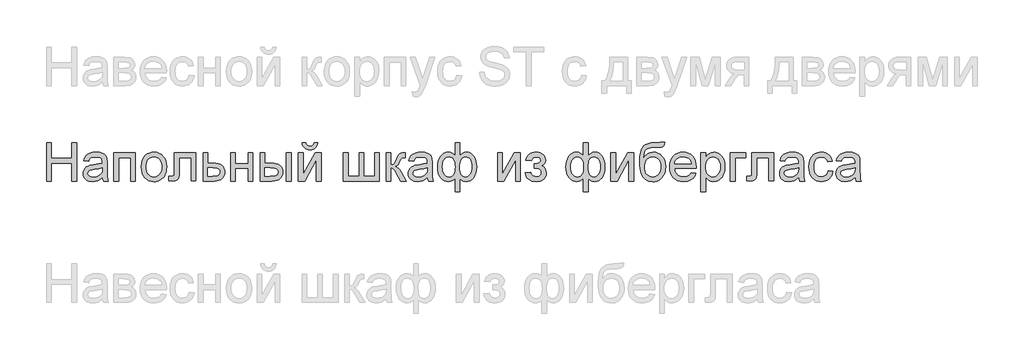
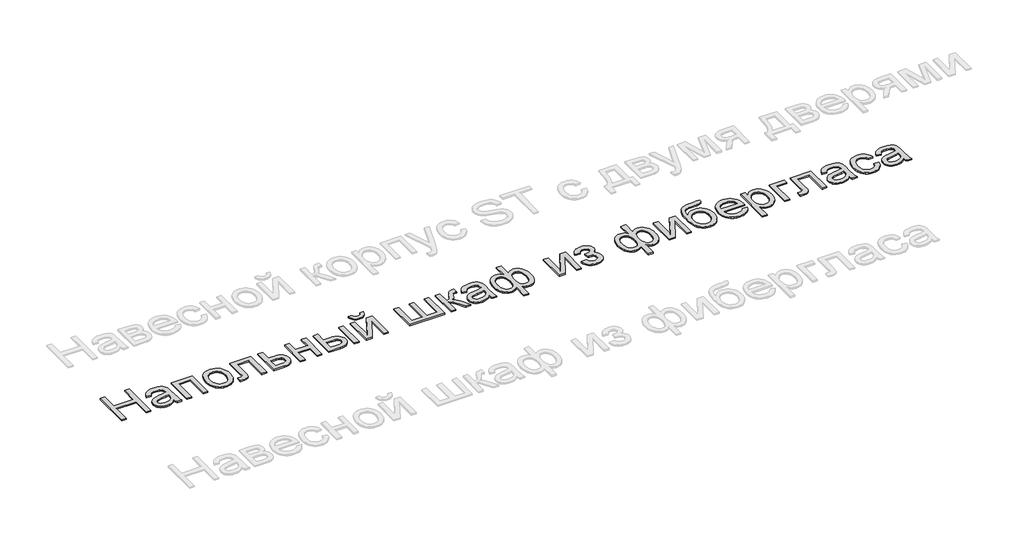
# One storey, part 3 of 6: 1 proxy.
"""IFC4 building model written with IfcOpenShell, lengths in millimetres."""

from ifc_helpers import new_model, si_unit, origin, origin_with_axes, place, context, project, spatial, polyline, outline, extrude, element, save

model = new_model("IFC4")

# Units and contexts
model_context = context("Model", 3, world=origin())
ifc_project = project(units=[si_unit("LENGTHUNIT", "METRE", prefix="MILLI")], contexts=[model_context])

# Site, building, storey
site = spatial("IfcSite", under=ifc_project)
building = spatial("IfcBuilding", under=site)
storey = spatial("IfcBuildingStorey", under=building, Name="Этаж 01", Elevation=0.0)

# Proxy
placement = place(None, origin())
element("IfcBuildingElementProxy", 1, Name="600 мм Arial", ObjectType="600 мм Arial", at=placement, inside=storey, context=model_context, shape_type="SweptSolid", body=[
    extrude(outline(polyline([(180.1086, -13078.4853079), (180.1086, -12475.747447), (255.4508326, -12475.747447), (255.4508326, -12720.609703), (575.6553212, -12720.609703), (575.6553212, -12475.747447), (650.9975538, -12475.747447), (650.9975538, -13078.4853079), (575.6553212, -13078.4853079), (575.6553212, -12795.9519356), (255.4508326, -12795.9519356), (255.4508326, -13078.4853079), (180.1086, -13078.4853079)])), origin_with_axes(), (0.0, 0.0, 1.0), 20.0),
    extrude(outline(polyline([(1055.9620541, -13021.9786334), (1019.9648008, -13052.8439328), (982.9006898, -13073.0406544), (943.9235924, -13084.1874788), (902.1873801, -13087.903087), (868.6411407, -13085.6682038), (839.2243766, -13078.9635545), (813.937088, -13067.7891389), (792.7792747, -13052.144957), (776.0728336, -13033.0242903), (764.1396614, -13011.4204202), (756.9797581, -12987.3333465), (754.5931236, -12960.7630694), (758.1983672, -12929.529888), (769.0140978, -12901.1661862), (785.6975463, -12876.8859745), (806.9059433, -12857.9032636), (831.8299485, -12843.5558658), (859.6602214, -12833.1815935), (924.848911, -12821.850828), (1001.8834008, -12809.9314514), (1055.5205957, -12795.9519356), (1055.9620541, -12779.1765166), (1050.7749179, -12745.5521022), (1044.2909978, -12733.0992967), (1035.2135095, -12723.5527589), (1019.5233425, -12714.0246153), (1000.4118728, -12707.2187983), (951.9250258, -12701.7741448), (907.0434224, -12705.3977825), (875.6998764, -12716.2686954), (854.3259325, -12736.3734465), (839.3531353, -12767.6985984), (764.0109027, -12758.2808193), (777.0891076, -12717.0780358), (796.6052475, -12684.7044202), (824.3803381, -12659.945962), (862.2353954, -12641.5886504), (908.5333445, -12630.2210968), (961.6371105, -12626.4319122), (1012.5703727, -12629.7796384), (1052.9454217, -12639.8228168), (1083.3876568, -12654.9243727), (1104.5224774, -12673.4472312), (1118.5387815, -12696.3478854), (1127.6254667, -12724.5828285), (1131.3042867, -12790.5072821), (1131.3042867, -12884.2436144), (1135.1302594, -13015.1360283), (1140.7956422, -13047.4912498), (1150.1398448, -13078.4853079), (1074.7976122, -13078.4853079), (1062.7310828, -13052.2921098), (1055.9620541, -13021.9786334)]), holes=[polyline([(1055.9620541, -12871.2941682), (1005.3414915, -12883.8389442), (934.4138429, -12894.3971575), (869.5930353, -12906.6108397), (852.7256458, -12914.961761), (840.2360521, -12926.4764675), (832.5105302, -12940.2720423), (829.9353562, -12955.4655687), (835.5455567, -12977.8695822), (852.3761579, -12996.2268938), (880.0592781, -13008.4773642), (918.2270351, -13012.5608543), (958.6940545, -13008.0542999), (994.4521845, -12994.5346366), (1023.4412857, -12974.6138265), (1043.601219, -12950.903832), (1052.5407515, -12926.4764675), (1055.5205957, -12892.6313239), (1055.9620541, -12871.2941682)])]), origin_with_axes(), (0.0, 0.0, 1.0), 20.0),
    extrude(outline(polyline([(1234.8998565, -12635.8496913), (1573.9399033, -12635.8496913), (1573.9399033, -13078.4853079), (1498.5976707, -13078.4853079), (1498.5976707, -12711.1919239), (1310.2420891, -12711.1919239), (1310.2420891, -13078.4853079), (1234.8998565, -13078.4853079), (1234.8998565, -12635.8496913)])), origin_with_axes(), (0.0, 0.0, 1.0), 20.0),
    extrude(outline(polyline([(1668.117694, -12857.1674996), (1672.1919871, -12799.8422877), (1684.4148664, -12750.4449328), (1704.7863319, -12708.9754349), (1733.3063836, -12675.433794), (1762.0195733, -12653.9954707), (1793.7126072, -12638.6823826), (1828.3854852, -12629.4945298), (1866.0382075, -12626.4319122), (1907.6042744, -12630.1613159), (1945.1880187, -12641.3495271), (1978.7894404, -12659.9965457), (2008.4085396, -12686.1023718), (2032.5829852, -12718.7840886), (2049.8504463, -12757.1587792), (2060.210923, -12801.2264437), (2063.6644153, -12850.9870821), (2062.137705, -12891.3161458), (2057.5575741, -12927.1018669), (2049.9240227, -12958.3442453), (2039.2370508, -12985.0432811), (2025.6300155, -13008.1048837), (2009.2362741, -13028.4349624), (1990.0558266, -13046.0335174), (1968.0886729, -13060.9005485), (1944.1901388, -13072.7141591), (1919.2155499, -13081.1524523), (1893.1649061, -13086.2154283), (1866.0382075, -13087.903087), (1823.8651352, -13084.1874788), (1785.931903, -13073.0406544), (1752.2385108, -13054.4626136), (1722.7849585, -13028.4533565), (1698.8680303, -12995.4543416), (1681.7845102, -12955.9070271), (1671.5343981, -12909.8114131), (1668.117694, -12857.1674996)]), holes=[polyline([(1743.4599267, -12857.0203468), (1745.6396275, -12893.5648245), (1752.1787299, -12925.2072746), (1763.0772341, -12951.9476971), (1778.3351398, -12973.7860921), (1796.8947865, -12990.7500506), (1817.6985133, -13002.8671638), (1840.7463203, -13010.1374317), (1866.0382075, -13012.5608543), (1891.2013359, -13010.1236361), (1914.1571724, -13002.8119815), (1934.9057169, -12990.6258904), (1953.4469695, -12973.5653629), (1968.7048753, -12951.5108372), (1979.6033794, -12924.3427519), (1986.1424818, -12892.0611068), (1988.3221826, -12854.665902), (1986.1286863, -12819.2802526), (1979.5481971, -12788.465537), (1968.5807151, -12762.2217552), (1953.2262403, -12740.5489071), (1934.6160099, -12723.5849486), (1913.8812609, -12711.4678354), (1891.0219934, -12704.1975675), (1866.0382075, -12701.7741448), (1840.7463203, -12704.1883704), (1817.6985133, -12711.4310472), (1796.8947865, -12723.5021752), (1778.3351398, -12740.4017543), (1763.0772341, -12762.1757699), (1752.1787299, -12788.8702072), (1745.6396275, -12820.4850661), (1743.4599267, -12857.0203468)])]), origin_with_axes(), (0.0, 0.0, 1.0), 20.0),
    extrude(outline(polyline([(2186.0955433, -12635.8496913), (2525.13559, -12635.8496913), (2525.13559, -13078.0438495), (2449.7933574, -13078.0438495), (2449.7933574, -12711.1919239), (2261.4377759, -12711.1919239), (2261.4377759, -12922.3561891), (2260.168583, -12983.6453295), (2256.3610043, -13019.7713414), (2246.8512548, -13041.8258671), (2228.4755491, -13060.9005485), (2200.5900939, -13074.089118), (2162.5510956, -13078.4853079), (2101.3355316, -13074.6593351), (2101.3355316, -13003.1430753), (2135.0335223, -13003.1430753), (2155.4693672, -13001.984247), (2169.0993951, -12998.5077621), (2177.6158633, -12992.5112856), (2182.7110289, -12983.7924823), (2186.0955433, -12918.088758), (2186.0955433, -12635.8496913)])), origin_with_axes(), (0.0, 0.0, 1.0), 20.0),
    extrude(outline(polyline([(2638.1489389, -12635.8496913), (2713.4911715, -12635.8496913), (2713.4911715, -12795.9519356), (2800.3113224, -12795.9519356), (2840.3920658, -12798.3109789), (2875.5799786, -12805.3881088), (2905.8750609, -12817.1833252), (2931.2773127, -12833.6966283), (2951.3636696, -12854.3578008), (2965.7110674, -12878.5966258), (2974.3195061, -12906.4131032), (2977.1889857, -12937.8072329), (2974.7471689, -12965.8168483), (2967.4217187, -12991.7203393), (2955.212635, -13015.5177059), (2938.1199178, -13037.208948), (2915.6561235, -13055.2673555), (2887.3338084, -13068.1662179), (2853.1529725, -13075.9055354), (2813.1136158, -13078.4853079), (2638.1489389, -13078.4853079), (2638.1489389, -12635.8496913)]), holes=[polyline([(2713.4911715, -13003.1430753), (2783.830209, -13003.1430753), (2838.405503, -12999.1883438), (2858.8367493, -12994.2449295), (2874.6970618, -12987.3241495), (2886.5750517, -12978.3064421), (2895.0593303, -12967.0722456), (2900.1498974, -12953.6215602), (2901.8467531, -12937.9543857), (2896.8251638, -12913.3430802), (2881.7603961, -12891.6012543), (2868.6683956, -12882.7169041), (2849.4787511, -12876.3709397), (2792.8065297, -12871.2941682), (2713.4911715, -12871.2941682), (2713.4911715, -13003.1430753)])]), origin_with_axes(), (0.0, 0.0, 1.0), 20.0),
    extrude(outline(polyline([(3071.3667764, -12635.8496913), (3146.7090091, -12635.8496913), (3146.7090091, -12805.3697147), (3344.4823697, -12805.3697147), (3344.4823697, -12635.8496913), (3419.8246023, -12635.8496913), (3419.8246023, -13078.4853079), (3344.4823697, -13078.4853079), (3344.4823697, -12880.7119473), (3146.7090091, -12880.7119473), (3146.7090091, -13078.4853079), (3071.3667764, -13078.4853079), (3071.3667764, -12635.8496913)])), origin_with_axes(), (0.0, 0.0, 1.0), 20.0),
    extrude(outline(polyline([(3532.8379512, -12635.8496913), (3608.1801838, -12635.8496913), (3608.1801838, -12795.9519356), (3701.327905, -12795.9519356), (3744.190756, -12798.3109789), (3781.8388796, -12805.3881088), (3814.272276, -12817.1833252), (3841.4909452, -12833.6966283), (3863.0258374, -12854.3578008), (3878.4079034, -12878.5966258), (3887.6371429, -12906.4131032), (3890.7135561, -12937.8072329), (3888.1337836, -12965.8168483), (3880.3944661, -12991.7203393), (3867.4956037, -13015.5177059), (3849.4371962, -13037.208948), (3825.7134061, -13055.2673555), (3795.8183955, -13068.1662179), (3759.7521643, -13075.9055354), (3717.5147128, -13078.4853079), (3532.8379512, -13078.4853079), (3532.8379512, -12635.8496913)]), holes=[polyline([(3608.1801838, -13003.1430753), (3685.5825556, -13003.1430753), (3745.584109, -12999.1883438), (3768.0525019, -12994.2449295), (3785.4993055, -12987.3241495), (3798.5683134, -12978.3064421), (3807.903319, -12967.0722456), (3813.5043224, -12953.6215602), (3815.3713235, -12937.9543857), (3809.8346995, -12913.3430802), (3793.2248274, -12891.6012543), (3778.8084517, -12882.7169041), (3757.7058208, -12876.3709397), (3695.4417931, -12871.2941682), (3608.1801838, -12871.2941682), (3608.1801838, -13003.1430753)])]), origin_with_axes(), (0.0, 0.0, 1.0), 20.0),
    extrude(outline(polyline([(3947.2202306, -12635.8496913), (4022.5624632, -12635.8496913), (4022.5624632, -13078.4853079), (3947.2202306, -13078.4853079), (3947.2202306, -12635.8496913)])), origin_with_axes(), (0.0, 0.0, 1.0), 20.0),
    extrude(outline(polyline([(4380.4380681, -12475.747447), (4436.9447425, -12475.747447), (4432.3968014, -12501.4577999), (4424.7862426, -12523.9951706), (4414.1130662, -12543.3595592), (4400.3772722, -12559.5509655), (4383.8547721, -12572.3302663), (4364.8214774, -12581.4583383), (4343.277388, -12586.9351815), (4319.2225041, -12588.7607959), (4293.0936854, -12586.9489771), (4269.7423757, -12581.5135206), (4249.1685752, -12572.4544265), (4231.3722836, -12559.7716947), (4216.6110186, -12543.6492662), (4205.1422974, -12524.2710821), (4196.96612, -12501.6371424), (4192.0824866, -12475.747447), (4248.589161, -12475.747447), (4256.5354121, -12500.5610876), (4269.7791639, -12518.2010292), (4288.3939929, -12528.7408484), (4312.4534754, -12532.2541214), (4339.6031666, -12528.851213), (4359.2480652, -12518.6424876), (4372.491817, -12501.1129105), (4380.4380681, -12475.747447)])), origin_with_axes(), (0.0, 0.0, 1.0), 20.0),
    extrude(outline(polyline([(4135.5758121, -12635.8496913), (4210.9180447, -12635.8496913), (4210.9180447, -12973.4182101), (4396.0362647, -12635.8496913), (4493.451417, -12635.8496913), (4493.451417, -13078.4853079), (4418.1091844, -13078.4853079), (4418.1091844, -12742.9769283), (4234.1681868, -13078.4853079), (4135.5758121, -13078.4853079), (4135.5758121, -12635.8496913)])), origin_with_axes(), (0.0, 0.0, 1.0), 20.0),
    extrude(outline(polyline([(4841.9092428, -12635.8496913), (4917.2514754, -12635.8496913), (4917.2514754, -13003.1430753), (5086.7714988, -13003.1430753), (5086.7714988, -12635.8496913), (5162.1137314, -12635.8496913), (5162.1137314, -13003.1430753), (5331.6337548, -13003.1430753), (5331.6337548, -12635.8496913), (5406.9759874, -12635.8496913), (5406.9759874, -13078.4853079), (4841.9092428, -13078.4853079), (4841.9092428, -12635.8496913)])), origin_with_axes(), (0.0, 0.0, 1.0), 20.0),
    extrude(outline(polyline([(5510.5715573, -12635.8496913), (5585.9137899, -12635.8496913), (5585.9137899, -12824.2052728), (5616.5583601, -12820.8207585), (5636.3871996, -12810.6672154), (5653.9351708, -12784.1797117), (5677.7371359, -12731.7933156), (5696.9221819, -12688.9534573), (5712.0973142, -12663.7351465), (5726.260771, -12649.994754), (5742.4107906, -12641.5886504), (5764.7596218, -12637.2844311), (5797.5195135, -12635.8496913), (5811.9404877, -12635.8496913), (5811.9404877, -12711.6333823), (5791.6334016, -12711.1919239), (5768.0889539, -12713.1784867), (5754.8452021, -12719.138175), (5744.1030478, -12735.729653), (5728.9463096, -12768.7286679), (5713.0354133, -12801.7828652), (5698.5592568, -12822.3658628), (5681.0296797, -12836.1062554), (5655.9585218, -12848.6326373), (5679.8340632, -12859.2368358), (5703.4888755, -12877.9528323), (5726.9229586, -12904.7806268), (5750.1363125, -12939.7202193), (5830.7760459, -13078.4853079), (5745.1331174, -13078.4853079), (5666.1120648, -12942.6632753), (5644.7749091, -12906.5188692), (5626.3808094, -12885.2001076), (5607.8027686, -12874.7706531), (5585.9137899, -12871.2941682), (5585.9137899, -13078.4853079), (5510.5715573, -13078.4853079), (5510.5715573, -12635.8496913)])), origin_with_axes(), (0.0, 0.0, 1.0), 20.0),
    extrude(outline(polyline([(6160.3983135, -13021.9786334), (6124.4010603, -13052.8439328), (6087.3369493, -13073.0406544), (6048.3598519, -13084.1874788), (6006.6236396, -13087.903087), (5973.0774001, -13085.6682038), (5943.6606361, -13078.9635545), (5918.3733474, -13067.7891389), (5897.2155342, -13052.144957), (5880.5090931, -13033.0242903), (5868.5759209, -13011.4204202), (5861.4160175, -12987.3333465), (5859.0293831, -12960.7630694), (5862.6346267, -12929.529888), (5873.4503573, -12901.1661862), (5890.1338058, -12876.8859745), (5911.3422028, -12857.9032636), (5936.266208, -12843.5558658), (5964.0964809, -12833.1815935), (6029.2851705, -12821.850828), (6106.3196603, -12809.9314514), (6159.9568552, -12795.9519356), (6160.3983135, -12779.1765166), (6155.2111774, -12745.5521022), (6148.7272573, -12733.0992967), (6139.649769, -12723.5527589), (6123.9596019, -12714.0246153), (6104.8481323, -12707.2187983), (6056.3612853, -12701.7741448), (6011.4796819, -12705.3977825), (5980.1361359, -12716.2686954), (5958.762192, -12736.3734465), (5943.7893948, -12767.6985984), (5868.4471622, -12758.2808193), (5881.5253671, -12717.0780358), (5901.0415069, -12684.7044202), (5928.8165976, -12659.945962), (5966.6716549, -12641.5886504), (6012.969604, -12630.2210968), (6066.07337, -12626.4319122), (6117.0066322, -12629.7796384), (6157.3816812, -12639.8228168), (6187.8239163, -12654.9243727), (6208.9587369, -12673.4472312), (6222.9750409, -12696.3478854), (6232.0617262, -12724.5828285), (6235.7405462, -12790.5072821), (6235.7405462, -12884.2436144), (6239.5665189, -13015.1360283), (6245.2319016, -13047.4912498), (6254.5761043, -13078.4853079), (6179.2338717, -13078.4853079), (6167.1673423, -13052.2921098), (6160.3983135, -13021.9786334)]), holes=[polyline([(6160.3983135, -12871.2941682), (6109.777751, -12883.8389442), (6038.8501023, -12894.3971575), (5974.0292948, -12906.6108397), (5957.1619053, -12914.961761), (5944.6723116, -12926.4764675), (5936.9467897, -12940.2720423), (5934.3716157, -12955.4655687), (5939.9818161, -12977.8695822), (5956.8124174, -12996.2268938), (5984.4955376, -13008.4773642), (6022.6632946, -13012.5608543), (6063.130314, -13008.0542999), (6098.888444, -12994.5346366), (6127.8775452, -12974.6138265), (6148.0374785, -12950.903832), (6156.977011, -12926.4764675), (6159.9568552, -12892.6313239), (6160.3983135, -12871.2941682)])]), origin_with_axes(), (0.0, 0.0, 1.0), 20.0),
    extrude(outline(polyline([(6593.6161511, -12475.747447), (6668.9583837, -12475.747447), (6668.9583837, -12678.3768499), (6691.8222497, -12655.5129839), (6716.8566195, -12639.307782), (6743.9511284, -12629.6508797), (6772.9954119, -12626.4319122), (6807.8752236, -12630.5245994), (6838.9382596, -12642.802661), (6866.1845198, -12663.266097), (6889.6140044, -12691.9149073), (6908.444964, -12726.7717264), (6921.8956495, -12765.8591884), (6929.9660607, -12809.1772933), (6932.6561978, -12856.7260412), (6929.7591271, -12906.0360241), (6921.067915, -12950.3704031), (6906.5825614, -12989.729178), (6886.3030664, -13024.112349), (6861.7193521, -13052.0207969), (6834.3213405, -13071.9554025), (6804.1090317, -13083.9161658), (6771.0824255, -13087.903087), (6748.2369536, -13086.063677), (6725.0235997, -13080.5454471), (6699.3086483, -13066.8234486), (6668.9583837, -13040.3727332), (6668.9583837, -13248.0053313), (6593.6161511, -13248.0053313), (6593.6161511, -13040.3727332), (6570.6971028, -13061.1212777), (6545.4971861, -13075.9837103), (6518.0899775, -13084.9232428), (6488.5490532, -13087.903087), (6455.9179203, -13084.0955083), (6425.4205029, -13072.6727724), (6397.056801, -13053.6348791), (6370.8268148, -13026.9818286), (6348.8090774, -12993.2378525), (6333.0821221, -12952.9271829), (6323.6459489, -12906.0498197), (6320.5005579, -12852.6057628), (6323.3470448, -12806.5009518), (6331.8865056, -12764.2772958), (6346.1189403, -12725.9347949), (6366.0443489, -12691.473449), (6390.7798145, -12663.0177766), (6419.4424205, -12642.6922964), (6452.0321667, -12630.4970083), (6488.5490532, -12626.4319122), (6519.2488057, -12629.6508797), (6546.8951377, -12639.307782), (6571.6352019, -12655.5129839), (6593.6161511, -12678.3768499), (6593.6161511, -12475.747447)]), holes=[polyline([(6668.5169253, -12858.4918748), (6670.0850223, -12900.3706414), (6674.7893133, -12934.7722065), (6682.6297983, -12961.69657), (6693.6064774, -12981.143732), (6706.9467982, -12994.888723), (6721.8782087, -13004.7065737), (6738.4007088, -13010.5972842), (6756.5142985, -13012.5608543), (6776.6420422, -13010.1466288), (6795.2338785, -13002.903952), (6812.2898075, -12990.832824), (6827.8098292, -12973.9332449), (6840.7178887, -12951.9476971), (6849.9379312, -12924.6186634), (6855.4699567, -12891.9461437), (6857.3139652, -12853.930138), (6855.612511, -12817.969673), (6850.5081483, -12786.9020385), (6842.0008772, -12760.7272345), (6830.0906976, -12739.4452611), (6815.5133735, -12722.9641477), (6799.004669, -12711.1919239), (6780.564584, -12704.1285896), (6760.1931185, -12701.7741448), (6738.7961819, -12704.2251586), (6720.2227397, -12711.5782), (6704.4727918, -12723.833269), (6691.5463382, -12740.9903655), (6681.47097, -12763.0402926), (6674.2742785, -12789.9738532), (6669.9562636, -12821.7910472), (6668.5169253, -12858.4918748)]), polyline([(6395.8427905, -12850.9870821), (6397.7281857, -12890.9482638), (6403.3843714, -12924.8945749), (6412.8113475, -12952.8260154), (6426.0091141, -12974.7425852), (6442.0027838, -12991.288078), (6459.8174694, -13003.1062871), (6479.4531709, -13010.1972125), (6500.9098883, -13012.5608543), (6522.8310567, -13010.2110081), (6541.799972, -13003.1614694), (6557.8166344, -12991.4122381), (6570.8810438, -12974.9633144), (6581.0207913, -12953.8146982), (6588.263468, -12927.9663896), (6592.6090741, -12897.4183884), (6594.0576095, -12862.1706947), (6592.5354977, -12824.5777533), (6587.9691624, -12791.9972041), (6580.3586037, -12764.4290471), (6569.7038214, -12741.8732823), (6555.9772244, -12724.3299096), (6539.1512217, -12711.7989292), (6519.2258131, -12704.2803409), (6496.2009987, -12701.7741448), (6475.0109958, -12704.2205601), (6455.8811321, -12711.5598059), (6438.8114075, -12723.7918822), (6423.8018221, -12740.9167891), (6411.5697458, -12762.474674), (6402.8325484, -12788.0056845), (6397.5902299, -12817.5098205), (6395.8427905, -12850.9870821)])]), origin_with_axes(), (0.0, 0.0, 1.0), 20.0),
    extrude(outline(polyline([(7262.2784655, -12635.8496913), (7337.6206981, -12635.8496913), (7337.6206981, -12973.4182101), (7522.7389181, -12635.8496913), (7620.1540704, -12635.8496913), (7620.1540704, -13078.4853079), (7544.8118378, -13078.4853079), (7544.8118378, -12742.9769283), (7360.8708402, -13078.4853079), (7262.2784655, -13078.4853079), (7262.2784655, -12635.8496913)])), origin_with_axes(), (0.0, 0.0, 1.0), 20.0),
    extrude(outline(polyline([(7836.7629892, -12880.7119473), (7836.7629892, -12805.3697147), (7896.2127196, -12802.4266587), (7911.6637634, -12797.1843403), (7926.2318904, -12786.7548857), (7936.8268919, -12772.058), (7940.358559, -12754.0133881), (7935.6312754, -12732.5842619), (7921.4494245, -12715.9743898), (7899.799569, -12705.3242061), (7872.6682719, -12701.7741448), (7845.2426692, -12705.305812), (7822.2684386, -12715.9008134), (7803.7455801, -12733.5591492), (7789.6740938, -12758.2808193), (7704.9140821, -12748.8630402), (7714.6905461, -12720.1682446), (7727.391672, -12695.2994217), (7743.0174598, -12674.2565716), (7761.5679094, -12657.0396942), (7783.0430208, -12643.6487896), (7807.4427942, -12634.0838577), (7834.7672293, -12628.3448986), (7865.0163264, -12626.4319122), (7898.4200116, -12628.7633644), (7927.997724, -12635.7577208), (7953.7494636, -12647.4149815), (7975.6752305, -12663.7351465), (7993.1864135, -12683.2926731), (8005.6944014, -12704.6620185), (8013.1991941, -12727.8431827), (8015.7007916, -12752.8361657), (8012.1415333, -12777.5578358), (8001.4637584, -12799.6307555), (7983.6674669, -12819.0549249), (7958.7526588, -12835.8303439), (7987.8337305, -12856.7628294), (8008.5638809, -12882.7720864), (8020.9798983, -12913.9316914), (8025.1185707, -12950.3152208), (8022.492813, -12979.4836645), (8014.6155397, -13005.7734315), (8001.486751, -13029.184522), (7983.1064469, -13049.7169359), (7960.0080561, -13066.423377), (7932.7250076, -13078.3565492), (7901.2573015, -13085.5164525), (7865.6049376, -13087.903087), (7830.8538846, -13085.695795), (7799.9563956, -13079.0739191), (7772.9124704, -13068.0374592), (7749.7221091, -13052.5864154), (7730.3853117, -13032.7207877), (7714.9020783, -13008.440576), (7703.2724087, -12979.7457804), (7695.496303, -12946.6364008), (7780.2563147, -12937.2186217), (7792.9482435, -12969.0772025), (7814.2486111, -12992.8423794), (7841.6926079, -13007.6312356), (7872.8154247, -13012.5608543), (7903.1289011, -13007.8335707), (7927.8505712, -12993.6517198), (7944.2948964, -12972.112229), (7949.7763381, -12945.3120256), (7946.3734296, -12924.0852345), (7936.1647043, -12905.7279229), (7922.1116121, -12891.9691363), (7907.175603, -12884.53792), (7851.478269, -12880.2704889), (7836.7629892, -12880.7119473)])), origin_with_axes(), (0.0, 0.0, 1.0), 20.0),
    extrude(outline(polyline([(8609.0208734, -12475.747447), (8684.3631061, -12475.747447), (8684.3631061, -12678.3768499), (8707.2269721, -12655.5129839), (8732.2613418, -12639.307782), (8759.3558508, -12629.6508797), (8788.4001343, -12626.4319122), (8823.279946, -12630.5245994), (8854.3429819, -12642.802661), (8881.5892422, -12663.266097), (8905.0187268, -12691.9149073), (8923.8496864, -12726.7717264), (8937.3003718, -12765.8591884), (8945.3707831, -12809.1772933), (8948.0609202, -12856.7260412), (8945.1638495, -12906.0360241), (8936.4726374, -12950.3704031), (8921.9872838, -12989.729178), (8901.7077888, -13024.112349), (8877.1240745, -13052.0207969), (8849.7260629, -13071.9554025), (8819.513754, -13083.9161658), (8786.4871479, -13087.903087), (8763.641676, -13086.063677), (8740.4283221, -13080.5454471), (8714.7133707, -13066.8234486), (8684.3631061, -13040.3727332), (8684.3631061, -13248.0053313), (8609.0208734, -13248.0053313), (8609.0208734, -13040.3727332), (8586.1018251, -13061.1212777), (8560.9019085, -13075.9837103), (8533.4946998, -13084.9232428), (8503.9537756, -13087.903087), (8471.3226427, -13084.0955083), (8440.8252253, -13072.6727724), (8412.4615234, -13053.6348791), (8386.2315372, -13026.9818286), (8364.2137998, -12993.2378525), (8348.4868445, -12952.9271829), (8339.0506713, -12906.0498197), (8335.9052802, -12852.6057628), (8338.7517672, -12806.5009518), (8347.291228, -12764.2772958), (8361.5236627, -12725.9347949), (8381.4490712, -12691.473449), (8406.1845369, -12663.0177766), (8434.8471428, -12642.6922964), (8467.4368891, -12630.4970083), (8503.9537756, -12626.4319122), (8534.6535281, -12629.6508797), (8562.2998601, -12639.307782), (8587.0399242, -12655.5129839), (8609.0208734, -12678.3768499), (8609.0208734, -12475.747447)]), holes=[polyline([(8683.9216477, -12858.4918748), (8685.4897447, -12900.3706414), (8690.1940357, -12934.7722065), (8698.0345207, -12961.69657), (8709.0111997, -12981.143732), (8722.3515206, -12994.888723), (8737.2829311, -13004.7065737), (8753.8054312, -13010.5972842), (8771.9190209, -13012.5608543), (8792.0467646, -13010.1466288), (8810.6386009, -13002.903952), (8827.6945299, -12990.832824), (8843.2145516, -12973.9332449), (8856.1226111, -12951.9476971), (8865.3426536, -12924.6186634), (8870.8746791, -12891.9461437), (8872.7186876, -12853.930138), (8871.0172334, -12817.969673), (8865.9128707, -12786.9020385), (8857.4055995, -12760.7272345), (8845.4954199, -12739.4452611), (8830.9180959, -12722.9641477), (8814.4093914, -12711.1919239), (8795.9693063, -12704.1285896), (8775.5978409, -12701.7741448), (8754.2009043, -12704.2251586), (8735.6274621, -12711.5782), (8719.8775142, -12723.833269), (8706.9510606, -12740.9903655), (8696.8756924, -12763.0402926), (8689.6790009, -12789.9738532), (8685.360986, -12821.7910472), (8683.9216477, -12858.4918748)]), polyline([(8411.2475128, -12850.9870821), (8413.1329081, -12890.9482638), (8418.7890937, -12924.8945749), (8428.2160699, -12952.8260154), (8441.4138364, -12974.7425852), (8457.4075062, -12991.288078), (8475.2221918, -13003.1062871), (8494.8578933, -13010.1972125), (8516.3146107, -13012.5608543), (8538.235779, -13010.2110081), (8557.2046944, -13003.1614694), (8573.2213568, -12991.4122381), (8586.2857661, -12974.9633144), (8596.4255136, -12953.8146982), (8603.6681904, -12927.9663896), (8608.0137965, -12897.4183884), (8609.4623318, -12862.1706947), (8607.9402201, -12824.5777533), (8603.3738848, -12791.9972041), (8595.763326, -12764.4290471), (8585.1085438, -12741.8732823), (8571.3819468, -12724.3299096), (8554.5559441, -12711.7989292), (8534.6305355, -12704.2803409), (8511.6057211, -12701.7741448), (8490.4157182, -12704.2205601), (8471.2858545, -12711.5598059), (8454.2161299, -12723.7918822), (8439.2065445, -12740.9167891), (8426.9744681, -12762.474674), (8418.2372707, -12788.0056845), (8412.9949523, -12817.5098205), (8411.2475128, -12850.9870821)])]), origin_with_axes(), (0.0, 0.0, 1.0), 20.0),
    extrude(outline(polyline([(9042.238711, -12635.8496913), (9117.5809436, -12635.8496913), (9117.5809436, -12973.4182101), (9302.6991636, -12635.8496913), (9400.1143159, -12635.8496913), (9400.1143159, -13078.4853079), (9324.7720833, -13078.4853079), (9324.7720833, -12742.9769283), (9140.8310857, -13078.4853079), (9042.238711, -13078.4853079), (9042.238711, -12635.8496913)])), origin_with_axes(), (0.0, 0.0, 1.0), 20.0),
    extrude(outline(polyline([(9823.9143743, -12466.3296679), (9889.8388279, -12466.3296679), (9882.7019171, -12502.1429801), (9870.4146585, -12525.1172107), (9853.3817221, -12538.7104505), (9832.0077782, -12546.3807901), (9797.1693533, -12549.9124572), (9739.7429738, -12551.0896796), (9663.1315483, -12555.4306871), (9635.682953, -12560.8569466), (9615.4724359, -12568.4537098), (9600.0489832, -12578.4417059), (9586.9615812, -12591.0416643), (9576.2102299, -12606.2535848), (9567.7949293, -12624.0774674), (9556.5193461, -12667.8186367), (9551.6816979, -12722.5226893), (9581.9767802, -12680.4369891), (9616.9439638, -12650.4178183), (9636.1887907, -12639.9239844), (9656.620037, -12632.4283887), (9701.0417879, -12626.4319122), (9742.0882215, -12630.2440894), (9779.4374411, -12641.6806209), (9813.0894466, -12660.7415068), (9843.0442381, -12687.426747), (9867.6371494, -12720.6143015), (9885.2035147, -12759.1821302), (9895.7433339, -12803.130233), (9899.2566069, -12852.45861), (9897.513766, -12890.1941057), (9892.2852431, -12924.3795401), (9883.5710384, -12955.0149132), (9871.3711517, -12982.1002251), (9840.8921284, -13026.9634345), (9805.225969, -13060.3119373), (9784.3670598, -13072.3830653), (9760.05006, -13081.0052995), (9732.2749693, -13086.1786401), (9701.0417879, -13087.903087), (9664.9111775, -13085.6819994), (9633.0388011, -13079.0187368), (9605.4246589, -13067.913299), (9582.0687507, -13052.3656862), (9562.0789628, -13033.3553841), (9544.5631813, -13011.8618786), (9529.5214062, -12987.8851695), (9516.9536375, -12961.425257), (9507.0392178, -12928.5871904), (9499.9574894, -12885.4760191), (9495.7084523, -12832.0917431), (9494.2921066, -12768.4343623), (9497.8651605, -12689.1052086), (9508.5843222, -12623.8751323), (9526.4495915, -12572.7441335), (9538.0620166, -12552.4657882), (9551.4609687, -12535.7122122), (9583.885168, -12509.4776274), (9623.988904, -12490.7386383), (9671.7721767, -12479.4952448), (9727.234986, -12475.747447), (9811.1120809, -12474.0551898), (9819.3158494, -12471.2776807), (9823.9143743, -12466.3296679)]), holes=[polyline([(9823.9143743, -12850.1041653), (9821.8726292, -12818.985947), (9815.747394, -12790.8199818), (9805.5386687, -12765.6062695), (9791.2464531, -12743.3448103), (9773.2386295, -12725.1576441), (9751.8830797, -12712.1668112), (9727.1798037, -12704.3723114), (9699.1288016, -12701.7741448), (9669.8545918, -12704.5194642), (9644.1304433, -12712.7554224), (9621.956356, -12726.4820193), (9603.33233, -12745.699255), (9588.5894591, -12769.5058187), (9578.0588369, -12797.0003993), (9571.7404637, -12828.1829969), (9569.6343393, -12863.0536115), (9571.9611929, -12897.1976592), (9578.9417537, -12927.0834728), (9590.5760218, -12952.7110523), (9606.8639972, -12974.0803976), (9626.564078, -12990.9155975), (9648.4346626, -13002.9407402), (9672.475751, -13010.1558258), (9698.6873432, -13012.5608543), (9725.2576203, -13009.7787468), (9749.1975411, -13001.432424), (9770.5071057, -12987.521886), (9789.186314, -12968.0471329), (9804.3798404, -12943.9830519), (9815.2323592, -12916.3045303), (9821.7438705, -12885.0115681), (9823.9143743, -12850.1041653)])]), origin_with_axes(), (0.0, 0.0, 1.0), 20.0),
    extrude(outline(polyline([(10303.3381904, -12946.6364008), (10377.2088951, -12956.0541799), (10365.8827281, -12985.6410893), (10350.5926327, -13011.7147258), (10331.3386088, -13034.2750891), (10308.1206564, -13053.3221794), (10281.1778987, -13068.4513265), (10250.7494592, -13079.2578601), (10216.8353378, -13085.7417802), (10179.4355345, -13087.903087), (10132.6869299, -13084.1736832), (10091.033491, -13072.9854721), (10054.4752177, -13054.3384534), (10023.0121101, -13028.2326273), (9997.7110259, -12995.3945607), (9979.6388229, -12956.5508206), (9968.7955011, -12911.7014068), (9965.1810605, -12860.8463195), (9968.8322893, -12808.2667854), (9979.7859757, -12761.922851), (9998.0421197, -12721.8145165), (10023.6007213, -12687.9417818), (10054.9810555, -12661.0312139), (10090.7023972, -12641.8093796), (10130.7647465, -12630.2762791), (10175.1681033, -12626.4319122), (10218.1413189, -12630.267082), (10257.0034531, -12641.7725914), (10291.7545061, -12660.9484404), (10322.3944778, -12687.794629), (10347.4058549, -12721.5937873), (10365.2711243, -12761.6285454), (10375.990286, -12807.8989034), (10379.5633398, -12860.4048611), (10379.1218814, -12880.7119473), (10040.5232931, -12880.7119473), (10044.8872932, -12910.7771033), (10053.5647098, -12937.1082571), (10066.5555428, -12959.7054087), (10083.8597921, -12978.568558), (10104.5209647, -12993.4401876), (10127.5825672, -13004.0627803), (10153.0445998, -13010.4363358), (10180.9070624, -13012.5608543), (10221.0061999, -13008.624517), (10254.7777671, -12996.815505), (10282.2217639, -12976.3980542), (10303.3381904, -12946.6364008)]), holes=[polyline([(10040.5232931, -12805.3697147), (10304.2211072, -12805.3697147), (10294.030776, -12765.5648828), (10285.2659874, -12749.9115039), (10274.0547836, -12737.0908164), (10253.5085742, -12721.6397726), (10230.1296734, -12710.6033127), (10203.9180812, -12703.9814368), (10174.8737977, -12701.7741448), (10148.3816955, -12703.5353799), (10124.0876883, -12708.819085), (10101.9917759, -12717.6252603), (10082.0939585, -12729.9539056), (10065.3967145, -12745.234804), (10052.9025222, -12762.8977383), (10044.6113817, -12782.9427085), (10040.5232931, -12805.3697147)])]), origin_with_axes(), (0.0, 0.0, 1.0), 20.0),
    extrude(outline(polyline([(10454.9055724, -13248.0053313), (10454.9055724, -12635.8496913), (10530.2478051, -12635.8496913), (10530.2478051, -12709.7203959), (10554.8223223, -12673.2816843), (10582.3398956, -12647.2540331), (10614.4192056, -12631.6374424), (10652.6789331, -12626.4319122), (10678.9549046, -12628.2529281), (10703.6305894, -12633.7159757), (10726.7059875, -12642.8210551), (10748.181099, -12655.5681662), (10767.5868742, -12671.6262153), (10784.4542637, -12690.6641086), (10798.7832674, -12712.681846), (10810.5738854, -12737.6794275), (10826.356023, -12793.1928206), (10831.6167355, -12853.7829852), (10825.6754413, -12918.2175167), (10818.2488235, -12947.8826011), (10807.8515586, -12975.8462312), (10794.6262009, -13001.3772417), (10778.7153046, -13023.744467), (10760.1188697, -13042.9479071), (10738.8368963, -13058.9875621), (10715.9132495, -13071.6381042), (10692.3917944, -13080.6742058), (10668.2725311, -13086.0958667), (10643.5554596, -13087.903087), (10608.9193697, -13083.0654387), (10577.998888, -13068.552494), (10551.5297785, -13046.6451212), (10530.2478051, -13019.6241887), (10530.2478051, -13248.0053313), (10454.9055724, -13248.0053313)]), holes=[polyline([(10530.2478051, -12860.6991667), (10532.2849516, -12897.0091197), (10538.3963913, -12928.242301), (10548.582124, -12954.3987109), (10562.8421498, -12975.4783492), (10580.0084434, -12991.7019452), (10598.9129795, -13003.2902281), (10619.5557579, -13010.2431978), (10641.9367788, -13012.5608543), (10664.6396964, -13010.1604243), (10685.6595539, -13002.9591343), (10704.9963513, -12990.9569842), (10722.6500885, -12974.153974), (10737.3607698, -12952.3109806), (10747.8683993, -12925.1888805), (10754.172977, -12892.7876738), (10756.2745029, -12855.1073604), (10754.2235608, -12819.1101072), (10748.0707344, -12787.9321081), (10737.8160238, -12761.5733631), (10723.4594289, -12740.0338723), (10706.2517486, -12723.2952415), (10687.4437816, -12711.3390767), (10667.0355279, -12704.1653778), (10645.0269876, -12701.7741448), (10623.0874251, -12704.3171291), (10602.4446466, -12711.946082), (10583.0986522, -12724.6610034), (10565.0494418, -12742.4618935), (10549.8237257, -12765.1096288), (10538.9482142, -12792.3650861), (10532.4229074, -12824.2282654), (10530.2478051, -12860.6991667)])]), origin_with_axes(), (0.0, 0.0, 1.0), 20.0),
    extrude(outline(polyline([(10916.3767472, -12635.8496913), (11161.2390032, -12635.8496913), (11161.2390032, -12711.1919239), (10991.7189798, -12711.1919239), (10991.7189798, -13078.4853079), (10916.3767472, -13078.4853079), (10916.3767472, -12635.8496913)])), origin_with_axes(), (0.0, 0.0, 1.0), 20.0),
    extrude(outline(polyline([(11255.4167939, -12635.8496913), (11594.4568407, -12635.8496913), (11594.4568407, -13078.0438495), (11519.1146081, -13078.0438495), (11519.1146081, -12711.1919239), (11330.7590266, -12711.1919239), (11330.7590266, -12922.3561891), (11329.4898337, -12983.6453295), (11325.682255, -13019.7713414), (11316.1725055, -13041.8258671), (11297.7967998, -13060.9005485), (11269.9113446, -13074.089118), (11231.8723463, -13078.4853079), (11170.6567823, -13074.6593351), (11170.6567823, -13003.1430753), (11204.354773, -13003.1430753), (11224.7906179, -13001.984247), (11238.4206458, -12998.5077621), (11246.937114, -12992.5112856), (11252.0322796, -12983.7924823), (11255.4167939, -12918.088758), (11255.4167939, -12635.8496913)])), origin_with_axes(), (0.0, 0.0, 1.0), 20.0),
    extrude(outline(polyline([(11990.0035619, -13021.9786334), (11954.0063087, -13052.8439328), (11916.9421977, -13073.0406544), (11877.9651003, -13084.1874788), (11836.2288879, -13087.903087), (11802.6826485, -13085.6682038), (11773.2658845, -13078.9635545), (11747.9785958, -13067.7891389), (11726.8207826, -13052.144957), (11710.1143415, -13033.0242903), (11698.1811692, -13011.4204202), (11691.0212659, -12987.3333465), (11688.6346315, -12960.7630694), (11692.239875, -12929.529888), (11703.0556057, -12901.1661862), (11719.7390542, -12876.8859745), (11740.9474512, -12857.9032636), (11765.8714564, -12843.5558658), (11793.7017293, -12833.1815935), (11858.8904188, -12821.850828), (11935.9249086, -12809.9314514), (11989.5621035, -12795.9519356), (11990.0035619, -12779.1765166), (11984.8164258, -12745.5521022), (11978.3325056, -12733.0992967), (11969.2550174, -12723.5527589), (11953.5648503, -12714.0246153), (11934.4533806, -12707.2187983), (11885.9665337, -12701.7741448), (11841.0849303, -12705.3977825), (11809.7413843, -12716.2686954), (11788.3674404, -12736.3734465), (11773.3946432, -12767.6985984), (11698.0524105, -12758.2808193), (11711.1306155, -12717.0780358), (11730.6467553, -12684.7044202), (11758.421846, -12659.945962), (11796.2769033, -12641.5886504), (11842.5748524, -12630.2210968), (11895.6786184, -12626.4319122), (11946.6118806, -12629.7796384), (11986.9869296, -12639.8228168), (12017.4291647, -12654.9243727), (12038.5639853, -12673.4472312), (12052.5802893, -12696.3478854), (12061.6669746, -12724.5828285), (12065.3457945, -12790.5072821), (12065.3457945, -12884.2436144), (12069.1717673, -13015.1360283), (12074.83715, -13047.4912498), (12084.1813527, -13078.4853079), (12008.8391201, -13078.4853079), (11996.7725906, -13052.2921098), (11990.0035619, -13021.9786334)]), holes=[polyline([(11990.0035619, -12871.2941682), (11939.3829994, -12883.8389442), (11868.4553507, -12894.3971575), (11803.6345432, -12906.6108397), (11786.7671537, -12914.961761), (11774.2775599, -12926.4764675), (11766.552038, -12940.2720423), (11763.9768641, -12955.4655687), (11769.5870645, -12977.8695822), (11786.4176658, -12996.2268938), (11814.1007859, -13008.4773642), (11852.2685429, -13012.5608543), (11892.7355624, -13008.0542999), (11928.4936923, -12994.5346366), (11957.4827935, -12974.6138265), (11977.6427269, -12950.903832), (11986.5822594, -12926.4764675), (11989.5621035, -12892.6313239), (11990.0035619, -12871.2941682)])]), origin_with_axes(), (0.0, 0.0, 1.0), 20.0),
    extrude(outline(polyline([(12451.4747367, -12918.3830636), (12526.8169693, -12927.8008427), (12518.6223978, -12963.352039), (12505.8109074, -12994.8105481), (12488.3824978, -13022.17637), (12466.3371693, -13045.4495047), (12440.6038237, -13064.0229469), (12412.1113632, -13077.2896914), (12380.8597877, -13085.2497381), (12346.8490972, -13087.903087), (12304.5932516, -13084.2012744), (12266.7060046, -13073.0958367), (12233.1873563, -13054.5867738), (12204.0373067, -13028.6740857), (12180.4422752, -12995.8452162), (12163.5886813, -12956.5876088), (12153.476525, -12910.9012635), (12150.1058062, -12858.7861804), (12155.8631594, -12791.7396867), (12163.059851, -12761.5687646), (12173.1352191, -12733.6327256), (12186.1582417, -12708.4925898), (12202.1978967, -12686.7093771), (12221.2541841, -12668.2830877), (12243.3271038, -12653.2137215), (12267.418776, -12641.4966799), (12292.5313207, -12633.1273645), (12318.6647379, -12628.1057753), (12345.8190277, -12626.4319122), (12379.2457054, -12628.7311747), (12409.4810069, -12635.6289621), (12436.5249321, -12647.1252744), (12460.377481, -12663.2201117), (12480.6339833, -12683.545592), (12496.889769, -12707.7338331), (12509.1448379, -12735.7848353), (12517.3991902, -12767.6985984), (12442.0569576, -12777.1163774), (12428.3901415, -12744.2461212), (12407.1081681, -12720.6832794), (12379.3882597, -12706.5014285), (12346.4076388, -12701.7741448), (12320.8076505, -12704.1009984), (12297.7184568, -12711.0815593), (12277.1400577, -12722.7158274), (12259.0724532, -12739.0038027), (12244.3617719, -12760.3225644), (12233.8541424, -12787.0491913), (12227.5495647, -12819.1836836), (12225.4480388, -12856.7260412), (12227.5035795, -12894.8340174), (12233.6702014, -12927.3409902), (12243.9479047, -12954.2469596), (12258.3366892, -12975.5519256), (12276.0456087, -12991.7433319), (12296.283717, -13003.3086222), (12319.051014, -13010.2477963), (12344.3474997, -13012.5608543), (12383.3613853, -13006.785107), (12400.2333733, -12999.5654229), (12415.3487247, -12989.457865), (12428.2843754, -12976.352069), (12438.6172609, -12960.13767), (12446.3473814, -12940.8146682), (12451.4747367, -12918.3830636)])), origin_with_axes(), (0.0, 0.0, 1.0), 20.0),
    extrude(outline(polyline([(12875.2747951, -13021.9786334), (12839.2775419, -13052.8439328), (12802.2134309, -13073.0406544), (12763.2363335, -13084.1874788), (12721.5001211, -13087.903087), (12687.9538817, -13085.6682038), (12658.5371177, -13078.9635545), (12633.249829, -13067.7891389), (12612.0920158, -13052.144957), (12595.3855747, -13033.0242903), (12583.4524024, -13011.4204202), (12576.2924991, -12987.3333465), (12573.9058647, -12960.7630694), (12577.5111082, -12929.529888), (12588.3268389, -12901.1661862), (12605.0102874, -12876.8859745), (12626.2186844, -12857.9032636), (12651.1426896, -12843.5558658), (12678.9729625, -12833.1815935), (12744.161652, -12821.850828), (12821.1961418, -12809.9314514), (12874.8333367, -12795.9519356), (12875.2747951, -12779.1765166), (12870.087659, -12745.5521022), (12863.6037388, -12733.0992967), (12854.5262506, -12723.5527589), (12838.8360835, -12714.0246153), (12819.7246138, -12707.2187983), (12771.2377669, -12701.7741448), (12726.3561635, -12705.3977825), (12695.0126175, -12716.2686954), (12673.6386736, -12736.3734465), (12658.6658764, -12767.6985984), (12583.3236437, -12758.2808193), (12596.4018487, -12717.0780358), (12615.9179885, -12684.7044202), (12643.6930791, -12659.945962), (12681.5481365, -12641.5886504), (12727.8460855, -12630.2210968), (12780.9498515, -12626.4319122), (12831.8831138, -12629.7796384), (12872.2581628, -12639.8228168), (12902.7003979, -12654.9243727), (12923.8352185, -12673.4472312), (12937.8515225, -12696.3478854), (12946.9382078, -12724.5828285), (12950.6170277, -12790.5072821), (12950.6170277, -12884.2436144), (12954.4430005, -13015.1360283), (12960.1083832, -13047.4912498), (12969.4525859, -13078.4853079), (12894.1103533, -13078.4853079), (12882.0438238, -13052.2921098), (12875.2747951, -13021.9786334)]), holes=[polyline([(12875.2747951, -12871.2941682), (12824.6542326, -12883.8389442), (12753.7265839, -12894.3971575), (12688.9057764, -12906.6108397), (12672.0383869, -12914.961761), (12659.5487931, -12926.4764675), (12651.8232712, -12940.2720423), (12649.2480973, -12955.4655687), (12654.8582977, -12977.8695822), (12671.688899, -12996.2268938), (12699.3720191, -13008.4773642), (12737.5397761, -13012.5608543), (12778.0067956, -13008.0542999), (12813.7649255, -12994.5346366), (12842.7540267, -12974.6138265), (12862.9139601, -12950.903832), (12871.8534926, -12926.4764675), (12874.8333367, -12892.6313239), (12875.2747951, -12871.2941682)])]), origin_with_axes(), (0.0, 0.0, 1.0), 20.0),
])

save(model, "model.ifc")
